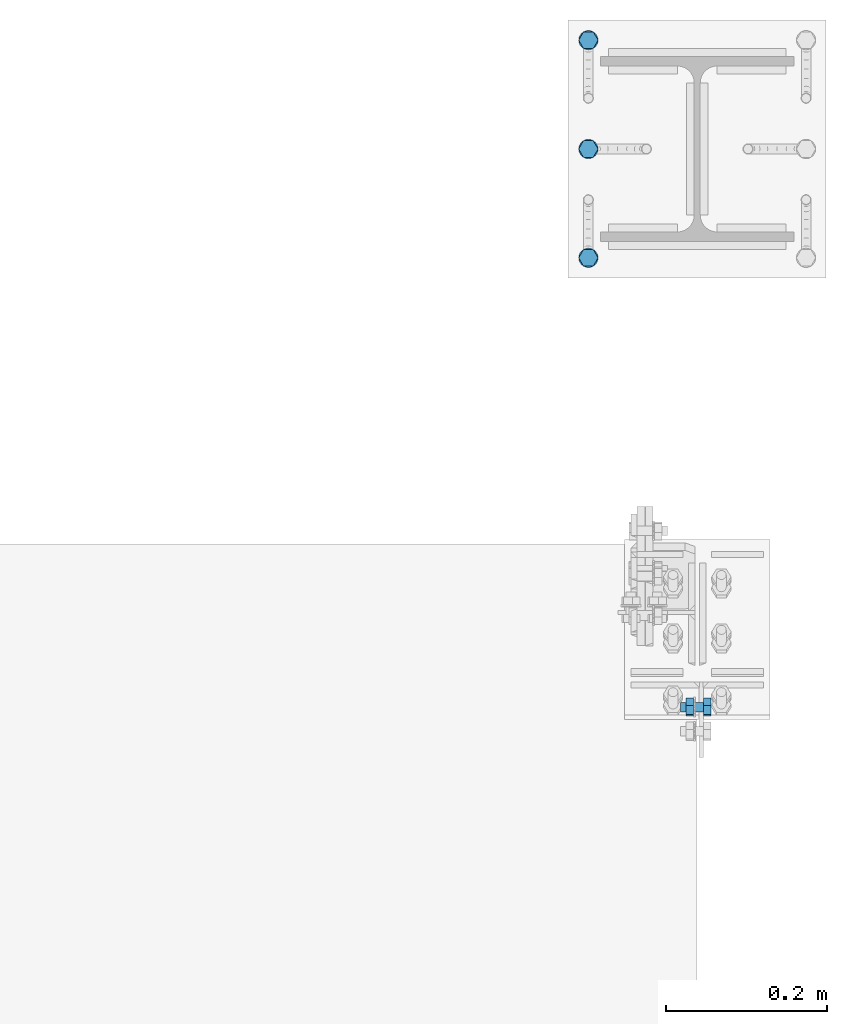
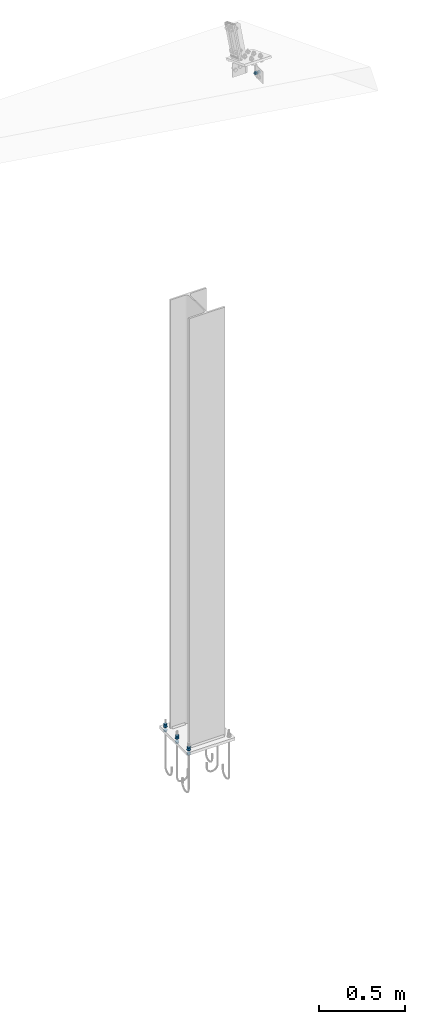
# One storey, part 68 of 72: 18 mechanical fasteners.
"""IFC4 building model written with IfcOpenShell, lengths in metres."""

from ifc_helpers import new_model, si_unit, frame, origin_with_axes, place, context, project, spatial, polyline, outline, extrude, type_object, element, save


model = new_model("IFC4")

# Units and contexts
model_context = context("Model", 3, precision=1e-05, world=origin_with_axes())
ifc_project = project(units=[si_unit("LENGTHUNIT", "METRE"), si_unit("AREAUNIT", "SQUARE_METRE"), si_unit("VOLUMEUNIT", "CUBIC_METRE"), si_unit("MASSUNIT", "GRAM", prefix="KILO"), si_unit("TIMEUNIT", "SECOND"), si_unit("PLANEANGLEUNIT", "RADIAN"), si_unit("SOLIDANGLEUNIT", "STERADIAN"), si_unit("THERMODYNAMICTEMPERATUREUNIT", "DEGREE_CELSIUS")], contexts=[model_context])

# Site, building, storey
placement_1 = place(None, origin_with_axes())
site = spatial("IfcSite", under=ifc_project, at=placement_1, Name="Italia", CompositionType="ELEMENT")
building = spatial("IfcBuilding", under=site, at=placement_1, Name="Uffici", CompositionType="ELEMENT")
storey = spatial("IfcBuildingStorey", under=building, at=placement_1, Name="Storey 0", CompositionType="ELEMENT", Elevation=0.0)

# Mechanical fasteners
mechanical_fastener_type_1 = type_object("IfcMechanicalFastenerType", Name="Collegamenti 0001_0101 0002_0102 0003_0103 0004_0104 0005_0105 0011_0111 0012_0112 0013_0113 0014_0114 0015_0115", PredefinedType="BOLT")
placement_2 = place(placement_1, origin_with_axes())
mechanical_fastener_1_placement = place(placement_2, origin_with_axes())
element("IfcMechanicalFastener", 1, at=mechanical_fastener_1_placement, inside=storey, type_object=mechanical_fastener_type_1, Name="Collegamenti 0001_0101 0002_0102 0003_0103 0004_0104 0005_0105 0011_0111 0012_0112 0013_0113 0014_0114 0015_0115", NominalDiameter=0.0119997, context=model_context, shape_type="SweptSolid", body=[
    extrude(outline(polyline([(0.0, 0.0), (0.0, 0.0120001), (0.0103922, 0.0180006), (0.0207849, 0.0120001), (0.0207849, 0.0), (0.0103922, -0.00599957), (0.0, 0.0)])), frame((13.841, 5.24461, 0.022), z_axis=(0.0, 0.0, 1.0), x_axis=(0.0, 1.0, 0.0)), (0.0, 0.0, 1.0), 0.0096),
])
mechanical_fastener_type_2 = type_object("IfcMechanicalFastenerType", Name="Collegamenti 0001_0101 0002_0102 0003_0103 0004_0104 0005_0105 0011_0111 0012_0112 0013_0113 0014_0114 0015_0115", PredefinedType="BOLT")
mechanical_fastener_2_placement = place(placement_2, origin_with_axes())
element("IfcMechanicalFastener", 2, at=mechanical_fastener_2_placement, inside=storey, type_object=mechanical_fastener_type_2, Name="Collegamenti 0001_0101 0002_0102 0003_0103 0004_0104 0005_0105 0011_0111 0012_0112 0013_0113 0014_0114 0015_0115", NominalDiameter=0.0119997, context=model_context, shape_type="SweptSolid", body=[
    extrude(outline(polyline([(0.0, 0.0), (0.0, 0.0120001), (0.0103922, 0.0180006), (0.0207849, 0.0120001), (0.0207849, 0.0), (0.0103922, -0.00599957), (0.0, 0.0)])), frame((13.841, 5.24461, 0.0316), z_axis=(0.0, 0.0, 1.0), x_axis=(0.0, 1.0, 0.0)), (0.0, 0.0, 1.0), 0.0096),
])
mechanical_fastener_type_3 = type_object("IfcMechanicalFastenerType", Name="Collegamenti 0001_0101 0002_0102 0003_0103 0004_0104 0005_0105 0011_0111 0012_0112 0013_0113 0014_0114 0015_0115", PredefinedType="BOLT")
mechanical_fastener_3_placement = place(placement_2, origin_with_axes())
element("IfcMechanicalFastener", 3, at=mechanical_fastener_3_placement, inside=storey, type_object=mechanical_fastener_type_3, Name="Collegamenti 0001_0101 0002_0102 0003_0103 0004_0104 0005_0105 0011_0111 0012_0112 0013_0113 0014_0114 0015_0115", NominalDiameter=0.0119997, context=model_context, shape_type="SweptSolid", body=[
    extrude(outline(polyline([(0.0, 0.0), (0.0, 0.0120001), (0.0103922, 0.0180006), (0.0207849, 0.0120001), (0.0207849, 0.0), (0.0103922, -0.00599957), (0.0, 0.0)])), frame((13.841, 5.24461, -0.0116), z_axis=(0.0, 0.0, 1.0), x_axis=(0.0, 1.0, 0.0)), (0.0, 0.0, 1.0), 0.0096),
])
mechanical_fastener_type_4 = type_object("IfcMechanicalFastenerType", Name="Collegamenti 0001_0101 0002_0102 0003_0103 0004_0104 0005_0105 0011_0111 0012_0112 0013_0113 0014_0114 0015_0115", PredefinedType="BOLT")
mechanical_fastener_4_placement = place(placement_2, origin_with_axes())
element("IfcMechanicalFastener", 4, at=mechanical_fastener_4_placement, inside=storey, type_object=mechanical_fastener_type_4, Name="Collegamenti 0001_0101 0002_0102 0003_0103 0004_0104 0005_0105 0011_0111 0012_0112 0013_0113 0014_0114 0015_0115", NominalDiameter=0.024, context=model_context, shape_type="SweptSolid", body=[
    extrude(outline(polyline([(0.0, 0.0), (-0.000409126, -0.00310612), (-0.00160789, -0.00599957), (-0.00351477, -0.00848484), (-0.00600004, -0.0103922), (-0.00889444, -0.011591), (-0.0120001, -0.0120001), (-0.0151057, -0.011591), (-0.0180001, -0.0103922), (-0.0204854, -0.00848484), (-0.0223923, -0.00599957), (-0.023591, -0.00310612), (-0.0240002, 0.0), (-0.023591, 0.00310612), (-0.0223923, 0.00599957), (-0.0204854, 0.00848484), (-0.0180001, 0.0103922), (-0.0151057, 0.011591), (-0.0120001, 0.0120001), (-0.00889444, 0.011591), (-0.00600004, 0.0103922), (-0.00351477, 0.00848484), (-0.00160789, 0.00599957), (-0.000409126, 0.00310612), (0.0, 0.0)])), frame((13.835, 5.267, 0.02), z_axis=(0.0, 0.0, 1.0), x_axis=(0.0, 1.0, 0.0)), (0.0, 0.0, 1.0), 0.002),
])
mechanical_fastener_type_5 = type_object("IfcMechanicalFastenerType", Name="Collegamenti 0001_0101 0002_0102 0003_0103 0004_0104 0005_0105 0011_0111 0012_0112 0013_0113 0014_0114 0015_0115", PredefinedType="BOLT")
mechanical_fastener_5_placement = place(placement_2, origin_with_axes())
element("IfcMechanicalFastener", 5, at=mechanical_fastener_5_placement, inside=storey, type_object=mechanical_fastener_type_5, Name="Collegamenti 0001_0101 0002_0102 0003_0103 0004_0104 0005_0105 0011_0111 0012_0112 0013_0113 0014_0114 0015_0115", NominalDiameter=0.024, context=model_context, shape_type="SweptSolid", body=[
    extrude(outline(polyline([(0.0, 0.0), (-0.000409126, -0.00310612), (-0.00160789, -0.00599957), (-0.00351477, -0.00848484), (-0.00600004, -0.0103922), (-0.00889444, -0.011591), (-0.0120001, -0.0120001), (-0.0151057, -0.011591), (-0.0180001, -0.0103922), (-0.0204854, -0.00848484), (-0.0223923, -0.00599957), (-0.023591, -0.00310612), (-0.0240002, 0.0), (-0.023591, 0.00310612), (-0.0223923, 0.00599957), (-0.0204854, 0.00848484), (-0.0180001, 0.0103922), (-0.0151057, 0.011591), (-0.0120001, 0.0120001), (-0.00889444, 0.011591), (-0.00600004, 0.0103922), (-0.00351477, 0.00848484), (-0.00160789, 0.00599957), (-0.000409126, 0.00310612), (0.0, 0.0)])), frame((13.835, 5.267, -0.002), z_axis=(0.0, 0.0, 1.0), x_axis=(0.0, 1.0, 0.0)), (0.0, 0.0, 1.0), 0.002),
])
mechanical_fastener_type_6 = type_object("IfcMechanicalFastenerType", Name="Collegamenti 0001_0101 0002_0102 0003_0103 0004_0104 0005_0105 0011_0111 0012_0112 0013_0113 0014_0114 0015_0115", PredefinedType="BOLT")
mechanical_fastener_6_placement = place(placement_2, origin_with_axes())
element("IfcMechanicalFastener", 6, at=mechanical_fastener_6_placement, inside=storey, type_object=mechanical_fastener_type_6, Name="Collegamenti 0001_0101 0002_0102 0003_0103 0004_0104 0005_0105 0011_0111 0012_0112 0013_0113 0014_0114 0015_0115", NominalDiameter=0.0119997, context=model_context, shape_type="SweptSolid", body=[
    extrude(outline(polyline([(0.0, 0.0), (0.0, 0.0120001), (0.0103922, 0.0180006), (0.0207844, 0.0120001), (0.0207844, 0.0), (0.0103922, -0.00599957), (0.0, 0.0)])), frame((13.841, 5.37961, 0.022), z_axis=(0.0, 0.0, 1.0), x_axis=(0.0, 1.0, 0.0)), (0.0, 0.0, 1.0), 0.0096),
])
mechanical_fastener_type_7 = type_object("IfcMechanicalFastenerType", Name="Collegamenti 0001_0101 0002_0102 0003_0103 0004_0104 0005_0105 0011_0111 0012_0112 0013_0113 0014_0114 0015_0115", PredefinedType="BOLT")
mechanical_fastener_7_placement = place(placement_2, origin_with_axes())
element("IfcMechanicalFastener", 7, at=mechanical_fastener_7_placement, inside=storey, type_object=mechanical_fastener_type_7, Name="Collegamenti 0001_0101 0002_0102 0003_0103 0004_0104 0005_0105 0011_0111 0012_0112 0013_0113 0014_0114 0015_0115", NominalDiameter=0.0119997, context=model_context, shape_type="SweptSolid", body=[
    extrude(outline(polyline([(0.0, 0.0), (0.0, 0.0120001), (0.0103922, 0.0180006), (0.0207844, 0.0120001), (0.0207844, 0.0), (0.0103922, -0.00599957), (0.0, 0.0)])), frame((13.841, 5.37961, 0.0316), z_axis=(0.0, 0.0, 1.0), x_axis=(0.0, 1.0, 0.0)), (0.0, 0.0, 1.0), 0.0096),
])
mechanical_fastener_type_8 = type_object("IfcMechanicalFastenerType", Name="Collegamenti 0001_0101 0002_0102 0003_0103 0004_0104 0005_0105 0011_0111 0012_0112 0013_0113 0014_0114 0015_0115", PredefinedType="BOLT")
mechanical_fastener_8_placement = place(placement_2, origin_with_axes())
element("IfcMechanicalFastener", 8, at=mechanical_fastener_8_placement, inside=storey, type_object=mechanical_fastener_type_8, Name="Collegamenti 0001_0101 0002_0102 0003_0103 0004_0104 0005_0105 0011_0111 0012_0112 0013_0113 0014_0114 0015_0115", NominalDiameter=0.0119997, context=model_context, shape_type="SweptSolid", body=[
    extrude(outline(polyline([(0.0, 0.0), (0.0, 0.0120001), (0.0103922, 0.0180006), (0.0207844, 0.0120001), (0.0207844, 0.0), (0.0103922, -0.00599957), (0.0, 0.0)])), frame((13.841, 5.37961, -0.0116), z_axis=(0.0, 0.0, 1.0), x_axis=(0.0, 1.0, 0.0)), (0.0, 0.0, 1.0), 0.0096),
])
mechanical_fastener_type_9 = type_object("IfcMechanicalFastenerType", Name="Collegamenti 0001_0101 0002_0102 0003_0103 0004_0104 0005_0105 0011_0111 0012_0112 0013_0113 0014_0114 0015_0115", PredefinedType="BOLT")
mechanical_fastener_9_placement = place(placement_2, origin_with_axes())
element("IfcMechanicalFastener", 9, at=mechanical_fastener_9_placement, inside=storey, type_object=mechanical_fastener_type_9, Name="Collegamenti 0001_0101 0002_0102 0003_0103 0004_0104 0005_0105 0011_0111 0012_0112 0013_0113 0014_0114 0015_0115", NominalDiameter=0.024, context=model_context, shape_type="SweptSolid", body=[
    extrude(outline(polyline([(0.0, 0.0), (-0.000409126, -0.00310612), (-0.00160789, -0.00599957), (-0.00351477, -0.00848484), (-0.00600004, -0.0103922), (-0.00889444, -0.011591), (-0.0120001, -0.0120001), (-0.0151057, -0.011591), (-0.0180001, -0.0103922), (-0.0204854, -0.00848484), (-0.0223923, -0.00599957), (-0.023591, -0.00310612), (-0.0240002, 0.0), (-0.023591, 0.00310612), (-0.0223923, 0.00599957), (-0.0204854, 0.00848484), (-0.0180001, 0.0103922), (-0.0151057, 0.011591), (-0.0120001, 0.0120001), (-0.00889444, 0.011591), (-0.00600004, 0.0103922), (-0.00351477, 0.00848484), (-0.00160789, 0.00599957), (-0.000409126, 0.00310612), (0.0, 0.0)])), frame((13.835, 5.402, 0.02), z_axis=(0.0, 0.0, 1.0), x_axis=(0.0, 1.0, 0.0)), (0.0, 0.0, 1.0), 0.002),
])
mechanical_fastener_type_10 = type_object("IfcMechanicalFastenerType", Name="Collegamenti 0001_0101 0002_0102 0003_0103 0004_0104 0005_0105 0011_0111 0012_0112 0013_0113 0014_0114 0015_0115", PredefinedType="BOLT")
mechanical_fastener_10_placement = place(placement_2, origin_with_axes())
element("IfcMechanicalFastener", 10, at=mechanical_fastener_10_placement, inside=storey, type_object=mechanical_fastener_type_10, Name="Collegamenti 0001_0101 0002_0102 0003_0103 0004_0104 0005_0105 0011_0111 0012_0112 0013_0113 0014_0114 0015_0115", NominalDiameter=0.024, context=model_context, shape_type="SweptSolid", body=[
    extrude(outline(polyline([(0.0, 0.0), (-0.000409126, -0.00310612), (-0.00160789, -0.00599957), (-0.00351477, -0.00848484), (-0.00600004, -0.0103922), (-0.00889444, -0.011591), (-0.0120001, -0.0120001), (-0.0151057, -0.011591), (-0.0180001, -0.0103922), (-0.0204854, -0.00848484), (-0.0223923, -0.00599957), (-0.023591, -0.00310612), (-0.0240002, 0.0), (-0.023591, 0.00310612), (-0.0223923, 0.00599957), (-0.0204854, 0.00848484), (-0.0180001, 0.0103922), (-0.0151057, 0.011591), (-0.0120001, 0.0120001), (-0.00889444, 0.011591), (-0.00600004, 0.0103922), (-0.00351477, 0.00848484), (-0.00160789, 0.00599957), (-0.000409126, 0.00310612), (0.0, 0.0)])), frame((13.835, 5.402, -0.002), z_axis=(0.0, 0.0, 1.0), x_axis=(0.0, 1.0, 0.0)), (0.0, 0.0, 1.0), 0.002),
])
mechanical_fastener_type_11 = type_object("IfcMechanicalFastenerType", Name="Collegamenti 0001_0101 0002_0102 0003_0103 0004_0104 0005_0105 0011_0111 0012_0112 0013_0113 0014_0114 0015_0115", PredefinedType="BOLT")
mechanical_fastener_11_placement = place(placement_2, origin_with_axes())
element("IfcMechanicalFastener", 11, at=mechanical_fastener_11_placement, inside=storey, type_object=mechanical_fastener_type_11, Name="Collegamenti 0001_0101 0002_0102 0003_0103 0004_0104 0005_0105 0011_0111 0012_0112 0013_0113 0014_0114 0015_0115", NominalDiameter=0.0119997, context=model_context, shape_type="SweptSolid", body=[
    extrude(outline(polyline([(0.0, 0.0), (0.0, 0.0120001), (0.0103927, 0.0180006), (0.0207849, 0.0120001), (0.0207849, 0.0), (0.0103927, -0.00599957), (0.0, 0.0)])), frame((13.841, 5.51461, 0.022), z_axis=(0.0, 0.0, 1.0), x_axis=(0.0, 1.0, 0.0)), (0.0, 0.0, 1.0), 0.0096),
])
mechanical_fastener_type_12 = type_object("IfcMechanicalFastenerType", Name="Collegamenti 0001_0101 0002_0102 0003_0103 0004_0104 0005_0105 0011_0111 0012_0112 0013_0113 0014_0114 0015_0115", PredefinedType="BOLT")
mechanical_fastener_12_placement = place(placement_2, origin_with_axes())
element("IfcMechanicalFastener", 12, at=mechanical_fastener_12_placement, inside=storey, type_object=mechanical_fastener_type_12, Name="Collegamenti 0001_0101 0002_0102 0003_0103 0004_0104 0005_0105 0011_0111 0012_0112 0013_0113 0014_0114 0015_0115", NominalDiameter=0.0119997, context=model_context, shape_type="SweptSolid", body=[
    extrude(outline(polyline([(0.0, 0.0), (0.0, 0.0120001), (0.0103927, 0.0180006), (0.0207849, 0.0120001), (0.0207849, 0.0), (0.0103927, -0.00599957), (0.0, 0.0)])), frame((13.841, 5.51461, 0.0316), z_axis=(0.0, 0.0, 1.0), x_axis=(0.0, 1.0, 0.0)), (0.0, 0.0, 1.0), 0.0096),
])
mechanical_fastener_type_13 = type_object("IfcMechanicalFastenerType", Name="Collegamenti 0001_0101 0002_0102 0003_0103 0004_0104 0005_0105 0011_0111 0012_0112 0013_0113 0014_0114 0015_0115", PredefinedType="BOLT")
mechanical_fastener_13_placement = place(placement_2, origin_with_axes())
element("IfcMechanicalFastener", 13, at=mechanical_fastener_13_placement, inside=storey, type_object=mechanical_fastener_type_13, Name="Collegamenti 0001_0101 0002_0102 0003_0103 0004_0104 0005_0105 0011_0111 0012_0112 0013_0113 0014_0114 0015_0115", NominalDiameter=0.0119997, context=model_context, shape_type="SweptSolid", body=[
    extrude(outline(polyline([(0.0, 0.0), (0.0, 0.0120001), (0.0103927, 0.0180006), (0.0207849, 0.0120001), (0.0207849, 0.0), (0.0103927, -0.00599957), (0.0, 0.0)])), frame((13.841, 5.51461, -0.0116), z_axis=(0.0, 0.0, 1.0), x_axis=(0.0, 1.0, 0.0)), (0.0, 0.0, 1.0), 0.0096),
])
mechanical_fastener_type_14 = type_object("IfcMechanicalFastenerType", Name="Collegamenti 0001_0101 0002_0102 0003_0103 0004_0104 0005_0105 0011_0111 0012_0112 0013_0113 0014_0114 0015_0115", PredefinedType="BOLT")
mechanical_fastener_14_placement = place(placement_2, origin_with_axes())
element("IfcMechanicalFastener", 14, at=mechanical_fastener_14_placement, inside=storey, type_object=mechanical_fastener_type_14, Name="Collegamenti 0001_0101 0002_0102 0003_0103 0004_0104 0005_0105 0011_0111 0012_0112 0013_0113 0014_0114 0015_0115", NominalDiameter=0.024, context=model_context, shape_type="SweptSolid", body=[
    extrude(outline(polyline([(0.0, 0.0), (-0.000409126, -0.00310612), (-0.00160789, -0.00599957), (-0.00351477, -0.00848484), (-0.00600004, -0.0103922), (-0.00889444, -0.011591), (-0.0120001, -0.0120001), (-0.0151057, -0.011591), (-0.0180001, -0.0103922), (-0.0204854, -0.00848484), (-0.0223923, -0.00599957), (-0.023591, -0.00310612), (-0.0240002, 0.0), (-0.023591, 0.00310612), (-0.0223923, 0.00599957), (-0.0204854, 0.00848484), (-0.0180001, 0.0103922), (-0.0151057, 0.011591), (-0.0120001, 0.0120001), (-0.00889444, 0.011591), (-0.00600004, 0.0103922), (-0.00351477, 0.00848484), (-0.00160789, 0.00599957), (-0.000409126, 0.00310612), (0.0, 0.0)])), frame((13.835, 5.537, 0.02), z_axis=(0.0, 0.0, 1.0), x_axis=(0.0, 1.0, 0.0)), (0.0, 0.0, 1.0), 0.002),
])
mechanical_fastener_type_15 = type_object("IfcMechanicalFastenerType", Name="Collegamenti 0001_0101 0002_0102 0003_0103 0004_0104 0005_0105 0011_0111 0012_0112 0013_0113 0014_0114 0015_0115", PredefinedType="BOLT")
mechanical_fastener_15_placement = place(placement_2, origin_with_axes())
element("IfcMechanicalFastener", 15, at=mechanical_fastener_15_placement, inside=storey, type_object=mechanical_fastener_type_15, Name="Collegamenti 0001_0101 0002_0102 0003_0103 0004_0104 0005_0105 0011_0111 0012_0112 0013_0113 0014_0114 0015_0115", NominalDiameter=0.024, context=model_context, shape_type="SweptSolid", body=[
    extrude(outline(polyline([(0.0, 0.0), (-0.000409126, -0.00310612), (-0.00160789, -0.00599957), (-0.00351477, -0.00848484), (-0.00600004, -0.0103922), (-0.00889444, -0.011591), (-0.0120001, -0.0120001), (-0.0151057, -0.011591), (-0.0180001, -0.0103922), (-0.0204854, -0.00848484), (-0.0223923, -0.00599957), (-0.023591, -0.00310612), (-0.0240002, 0.0), (-0.023591, 0.00310612), (-0.0223923, 0.00599957), (-0.0204854, 0.00848484), (-0.0180001, 0.0103922), (-0.0151057, 0.011591), (-0.0120001, 0.0120001), (-0.00889444, 0.011591), (-0.00600004, 0.0103922), (-0.00351477, 0.00848484), (-0.00160789, 0.00599957), (-0.000409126, 0.00310612), (0.0, 0.0)])), frame((13.835, 5.537, -0.002), z_axis=(0.0, 0.0, 1.0), x_axis=(0.0, 1.0, 0.0)), (0.0, 0.0, 1.0), 0.002),
])
mechanical_fastener_type_16 = type_object("IfcMechanicalFastenerType", Name="Collegamento 0210_0105", PredefinedType="BOLT")
mechanical_fastener_16_placement = place(placement_2, origin_with_axes())
element("IfcMechanicalFastener", 16, at=mechanical_fastener_16_placement, inside=storey, type_object=mechanical_fastener_type_16, Name="Collegamento 0210_0105", NominalDiameter=0.0119996, context=model_context, shape_type="SweptSolid", body=[
    extrude(outline(polyline([(0.0, 0.0), (0.01122, 0.00425482), (0.0131454, 0.0160995), (0.00385046, 0.0236893), (-0.00737, 0.019434), (-0.00929546, 0.00758934), (0.0, 0.0)])), frame((13.9775, 4.69577, 5.0804), z_axis=(1.0, 0.0, 0.0), x_axis=(0.0, 1.0, 0.0)), (0.0, 0.0, 1.0), 0.00960064),
])
mechanical_fastener_type_17 = type_object("IfcMechanicalFastenerType", Name="Collegamento 0210_0105", PredefinedType="BOLT")
mechanical_fastener_17_placement = place(placement_2, origin_with_axes())
element("IfcMechanicalFastener", 17, at=mechanical_fastener_17_placement, inside=storey, type_object=mechanical_fastener_type_17, Name="Collegamento 0210_0105", NominalDiameter=0.012, context=model_context, shape_type="SweptSolid", body=[
    extrude(outline(polyline([(0.0, 0.0), (-0.000204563, -0.00155306), (-0.000803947, -0.00299978), (-0.00175762, -0.00424242), (-0.00300026, -0.00519609), (-0.00444698, -0.00579548), (-0.00600004, -0.00600004), (-0.0075531, -0.00579548), (-0.00899982, -0.00519609), (-0.0102425, -0.00424242), (-0.0111961, -0.00299978), (-0.0117955, -0.00155306), (-0.0120001, 0.0), (-0.0117955, 0.00155306), (-0.0111961, 0.00299978), (-0.0102425, 0.00424242), (-0.00899982, 0.00519609), (-0.0075531, 0.00579548), (-0.00600004, 0.00600004), (-0.00444698, 0.00579548), (-0.00300026, 0.00519609), (-0.00175762, 0.00424242), (-0.000803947, 0.00299978), (-0.000204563, 0.00155306), (0.0, 0.0)])), frame((13.9495, 4.7037, 5.09225), z_axis=(1.0, 0.0, 0.0), x_axis=(0.0, 1.0, 0.0)), (0.0, 0.0, 1.0), 0.0279999),
])
mechanical_fastener_type_18 = type_object("IfcMechanicalFastenerType", Name="Collegamento 0210_0105", PredefinedType="BOLT")
mechanical_fastener_18_placement = place(placement_2, origin_with_axes())
element("IfcMechanicalFastener", 18, at=mechanical_fastener_18_placement, inside=storey, type_object=mechanical_fastener_type_18, Name="Collegamento 0210_0105", NominalDiameter=0.0119996, context=model_context, shape_type="SweptSolid", body=[
    extrude(outline(polyline([(0.0, 0.0), (0.01122, 0.00425482), (0.0131454, 0.0160995), (0.00385046, 0.0236893), (-0.00737, 0.019434), (-0.00929546, 0.00758934), (0.0, 0.0)])), frame((13.9559, 4.69577, 5.0804), z_axis=(1.0, 0.0, 0.0), x_axis=(0.0, 1.0, 0.0)), (0.0, 0.0, 1.0), 0.00959969),
])

save(model, "model.ifc")
